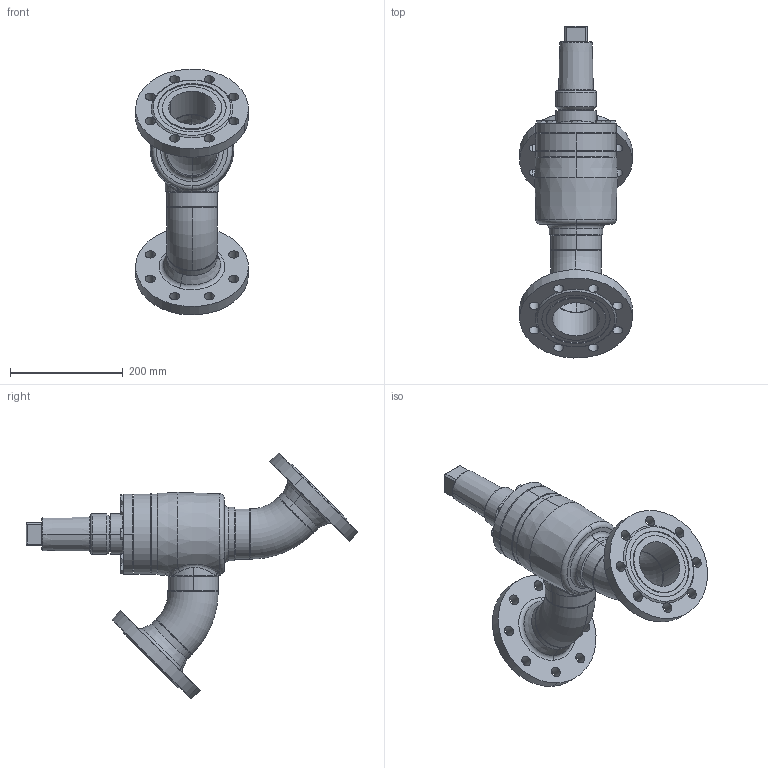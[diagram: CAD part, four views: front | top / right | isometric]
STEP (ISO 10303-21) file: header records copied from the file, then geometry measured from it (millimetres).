
FILE_DESCRIPTION (( 'STEP AP214' ), '1' );
FILE_NAME ('RVA29320D18-DN080_DIN-FL-N_PS40.STEP', '2007-01-08T09:19:14', ( 'Herr Grams' ), ( 'AWP GmbH' ), 'SwSTEP 2.0', 'SolidWorks 2002296', '' );
FILE_SCHEMA (( 'AUTOMOTIVE_DESIGN' ));
Length unit declared in the file: millimetre
Products named in the file (17): RVA29320D18-DN080_DIN-FL-N_PS40; Gehäuse-kpl16320-DN080_DIN_PS40_Standard; Gehäuse-kpl16300-DN080_R1_Standard; Rohrbogen 45°_Rohrbogen-DN080-45°; Gehäuse-kpl16400-DN080_R1_Standard; Kopfstück16300-DN080_Standard; Gehäuse16400-DN080_Standard; bead-DN080-1_Standard; bead-DN080-2_Standard; bead-DN080-3_Standard; Flansch-DIN-Nut_PS40_DIN-Flansch-DN080_PS40-Nut; bead-DN080-7_Standard; bead-DN080-6_Standard; RVA29300E18_Deck-Schr-DN80_Standard; Deckel29300E18-DN80_Standard; Sechskantschraube-DIN933_M10x 30; Kappe16402_DN080-100_Standard
Assembly tree (25 placements, depth 5):
  RVA29320D18-DN080_DIN-FL-N_PS40
    RVA29300E18_Deck-Schr-DN80_Standard
      Sechskantschraube-DIN933_M10x 30  x8
      Deckel29300E18-DN80_Standard
    Gehäuse-kpl16320-DN080_DIN_PS40_Standard
      Flansch-DIN-Nut_PS40_DIN-Flansch-DN080_PS40-Nut  x2
      bead-DN080-6_Standard
      bead-DN080-7_Standard
      Gehäuse-kpl16300-DN080_R1_Standard
        Rohrbogen 45°_Rohrbogen-DN080-45°  x2
        Gehäuse-kpl16400-DN080_R1_Standard
          Kopfstück16300-DN080_Standard
          Gehäuse16400-DN080_Standard
          bead-DN080-1_Standard
        bead-DN080-2_Standard
        bead-DN080-3_Standard
    Kappe16402_DN080-100_Standard
Bounding box: 199.81 x 587.85 x 435.48 mm (x, y, z)
Volume: 3472319.8 mm3; surface area: 648102.1 mm2
Topology: 21 solids, 21 shells, 464 faces, 1056 edges, 649 vertices
Faces by surface type: cylinder 144, cone 139, plane 127, bspline 28, torus 26
Entity records: 20718 total; most frequent: CARTESIAN_POINT 14209, DIRECTION 1227, ORIENTED_EDGE 1132, EDGE_CURVE 566, AXIS2_PLACEMENT_3D 542, VERTEX_POINT 357, EDGE_LOOP 309, CIRCLE 293
